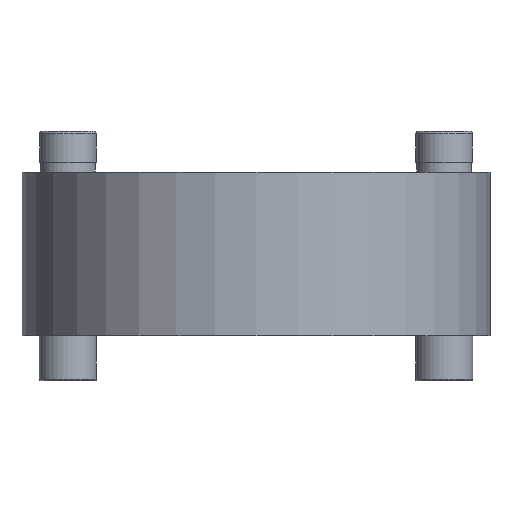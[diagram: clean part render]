
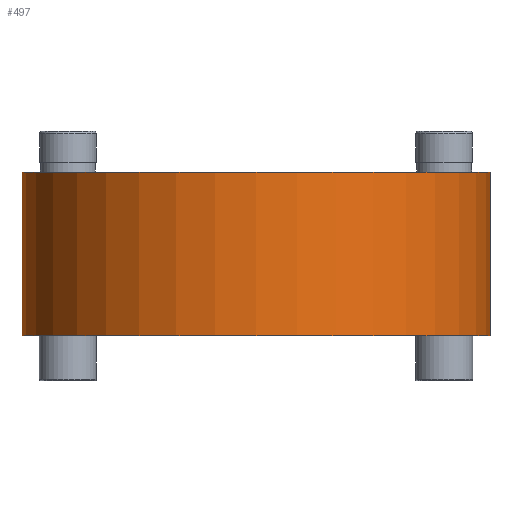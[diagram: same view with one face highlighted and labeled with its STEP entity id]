
A CAD part, front view. The second image highlights one B-rep face of the part: STEP entity #497.
In plain terms, the highlighted cylindrical face has radius 28.6 mm (diameter 57.2 mm), a partial arc.
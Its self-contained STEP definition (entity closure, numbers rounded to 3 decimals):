
#497 = ADVANCED_FACE ( 'NONE', ( #3272 ), #3276, .T. ) ;
#841 = DIRECTION ( 'NONE',  ( 1., 0., 0. ) ) ;
#944 = DIRECTION ( 'NONE',  ( 0., 0., 1. ) ) ;
#960 = CARTESIAN_POINT ( 'NONE',  ( 0., 0., -20. ) ) ;
#1253 = EDGE_CURVE ( 'NONE', #11301, #11303, #4068, .T. ) ;
#1264 = EDGE_CURVE ( 'NONE', #11274, #11303, #4087, .T. ) ;
#1265 = EDGE_CURVE ( 'NONE', #11313, #11274, #4088, .T. ) ;
#1266 = EDGE_CURVE ( 'NONE', #11313, #11301, #4080, .T. ) ;
#1580 = ORIENTED_EDGE ( 'NONE', *, *, #1264, .F. ) ;
#1581 = ORIENTED_EDGE ( 'NONE', *, *, #1265, .F. ) ;
#1582 = ORIENTED_EDGE ( 'NONE', *, *, #1266, .T. ) ;
#1583 = ORIENTED_EDGE ( 'NONE', *, *, #1253, .T. ) ;
#2329 = EDGE_LOOP ( 'NONE', ( #1580, #1581, #1582, #1583 ) ) ;
#3272 = FACE_OUTER_BOUND ( 'NONE', #2329, .T. ) ;
#3276 = CYLINDRICAL_SURFACE ( 'NONE', #3501, 28.6 ) ;
#3501 = AXIS2_PLACEMENT_3D ( 'NONE', #960, #944, #841 ) ;
#4068 = LINE ( 'NONE', #6530, #4071 ) ;
#4071 = VECTOR ( 'NONE', #6532, 1000. ) ;
#4080 = CIRCLE ( 'NONE', #6628, 28.6 ) ;
#4087 = CIRCLE ( 'NONE', #6627, 28.6 ) ;
#4088 = LINE ( 'NONE', #6553, #4090 ) ;
#4090 = VECTOR ( 'NONE', #6554, 1000. ) ;
#6530 = CARTESIAN_POINT ( 'NONE',  ( 28.6, 0., -20. ) ) ;
#6532 = DIRECTION ( 'NONE',  ( 0., 0., 1. ) ) ;
#6553 = CARTESIAN_POINT ( 'NONE',  ( -28.6, 0., -20. ) ) ;
#6554 = DIRECTION ( 'NONE',  ( 0., 0., 1. ) ) ;
#6559 = CARTESIAN_POINT ( 'NONE',  ( 0., 0., 0. ) ) ;
#6560 = DIRECTION ( 'NONE',  ( 0., 0., 1. ) ) ;
#6561 = DIRECTION ( 'NONE',  ( 1., 0., 0. ) ) ;
#6563 = CARTESIAN_POINT ( 'NONE',  ( 0., 0., -20. ) ) ;
#6564 = DIRECTION ( 'NONE',  ( 0., 0., 1. ) ) ;
#6565 = DIRECTION ( 'NONE',  ( 1., 0., 0. ) ) ;
#6627 = AXIS2_PLACEMENT_3D ( 'NONE', #6559, #6560, #6561 ) ;
#6628 = AXIS2_PLACEMENT_3D ( 'NONE', #6563, #6564, #6565 ) ;
#10572 = CARTESIAN_POINT ( 'NONE',  ( -28.6, 0., 0. ) ) ;
#10599 = CARTESIAN_POINT ( 'NONE',  ( 28.6, 0., -20. ) ) ;
#10601 = CARTESIAN_POINT ( 'NONE',  ( 28.6, 0., 0. ) ) ;
#10611 = CARTESIAN_POINT ( 'NONE',  ( -28.6, 0., -20. ) ) ;
#11274 = VERTEX_POINT ( 'NONE', #10572 ) ;
#11301 = VERTEX_POINT ( 'NONE', #10599 ) ;
#11303 = VERTEX_POINT ( 'NONE', #10601 ) ;
#11313 = VERTEX_POINT ( 'NONE', #10611 ) ;
